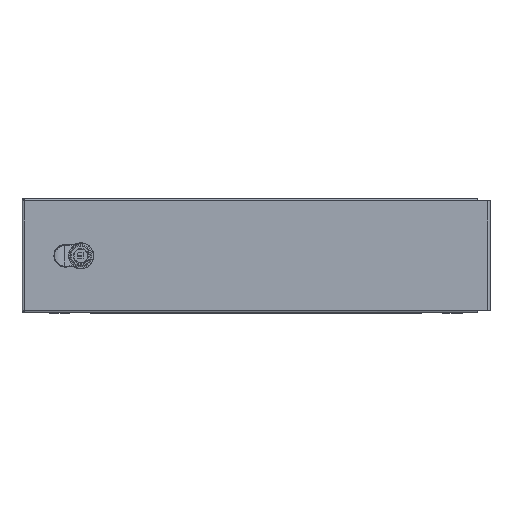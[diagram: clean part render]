
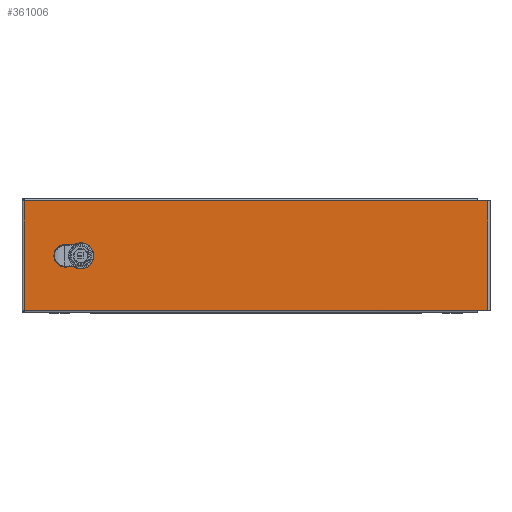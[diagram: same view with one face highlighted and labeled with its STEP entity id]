
A CAD part, top view. The second image highlights one B-rep face of the part: STEP entity #361006.
In plain terms, the highlighted planar face has unit normal (0, 0, 1).
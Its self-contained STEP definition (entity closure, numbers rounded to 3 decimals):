
#358171=CARTESIAN_POINT(' ',(276.189,122.733,179.253));
#358172=VERTEX_POINT(' ',#358171);
#359901=CARTESIAN_POINT(' ',(276.189,122.733,179.253));
#359906=DIRECTION(' ',(-1.,0.,0.));
#359911=VECTOR(' ',#359906,1.);
#359916=LINE('',#359901,#359911);
#359921=CARTESIAN_POINT(' ',(-299.011,122.733,179.253));
#359922=VERTEX_POINT(' ',#359921);
#359926=EDGE_CURVE(' ',#358172,#359922,#359916,.T.);
#360226=CARTESIAN_POINT(' ',(289.389,122.733,179.253));
#360231=DIRECTION(' ',(-1.,0.,0.));
#360236=VECTOR(' ',#360231,1.);
#360241=LINE('',#360226,#360236);
#360246=CARTESIAN_POINT(' ',(289.389,122.733,179.253));
#360247=VERTEX_POINT(' ',#360246);
#360251=EDGE_CURVE(' ',#360247,#358172,#360241,.T.);
#360826=DIRECTION(' ',(-0.,-0.,1.));
#360831=CARTESIAN_POINT(' ',(289.389,-16.667,179.253));
#360836=DIRECTION(' ',(0.,1.,0.));
#360841=AXIS2_PLACEMENT_3D(' ',#360831,#360826,#360836);
#360846=PLANE('NONE',#360841);
#360851=CARTESIAN_POINT(' ',(-299.011,-16.667,179.253));
#360856=DIRECTION(' ',(1.,0.,0.));
#360861=VECTOR(' ',#360856,1.);
#360866=LINE('',#360851,#360861);
#360871=CARTESIAN_POINT(' ',(-299.011,-16.667,179.253));
#360872=VERTEX_POINT(' ',#360871);
#360876=CARTESIAN_POINT(' ',(276.189,-16.667,179.253));
#360877=VERTEX_POINT(' ',#360876);
#360881=EDGE_CURVE(' ',#360872,#360877,#360866,.T.);
#360886=ORIENTED_EDGE(' ',*,*,#360881,.T.);
#360891=CARTESIAN_POINT(' ',(276.189,-16.667,179.253));
#360896=DIRECTION(' ',(1.,0.,0.));
#360901=VECTOR(' ',#360896,1.);
#360906=LINE('',#360891,#360901);
#360911=CARTESIAN_POINT(' ',(289.389,-16.667,179.253));
#360912=VERTEX_POINT(' ',#360911);
#360916=EDGE_CURVE(' ',#360877,#360912,#360906,.T.);
#360921=ORIENTED_EDGE(' ',*,*,#360916,.T.);
#360926=CARTESIAN_POINT(' ',(289.389,122.733,179.253));
#360931=DIRECTION(' ',(0.,-1.,0.));
#360936=VECTOR(' ',#360931,1.);
#360941=LINE('',#360926,#360936);
#360946=EDGE_CURVE(' ',#360247,#360912,#360941,.T.);
#360951=ORIENTED_EDGE(' ',*,*,#360946,.F.);
#360956=ORIENTED_EDGE(' ',*,*,#360251,.T.);
#360961=ORIENTED_EDGE(' ',*,*,#359926,.T.);
#360966=CARTESIAN_POINT(' ',(-299.011,122.733,179.253));
#360971=DIRECTION(' ',(0.,-1.,0.));
#360976=VECTOR(' ',#360971,1.);
#360981=LINE('',#360966,#360976);
#360986=EDGE_CURVE(' ',#359922,#360872,#360981,.T.);
#360991=ORIENTED_EDGE(' ',*,*,#360986,.T.);
#360996=EDGE_LOOP(' ',(#360886,#360921,#360951,#360956,#360961,#360991));
#361001=FACE_OUTER_BOUND(' ',#360996,.T.);
#361006=ADVANCED_FACE('NONE',(#361001),#360846,.T.);
